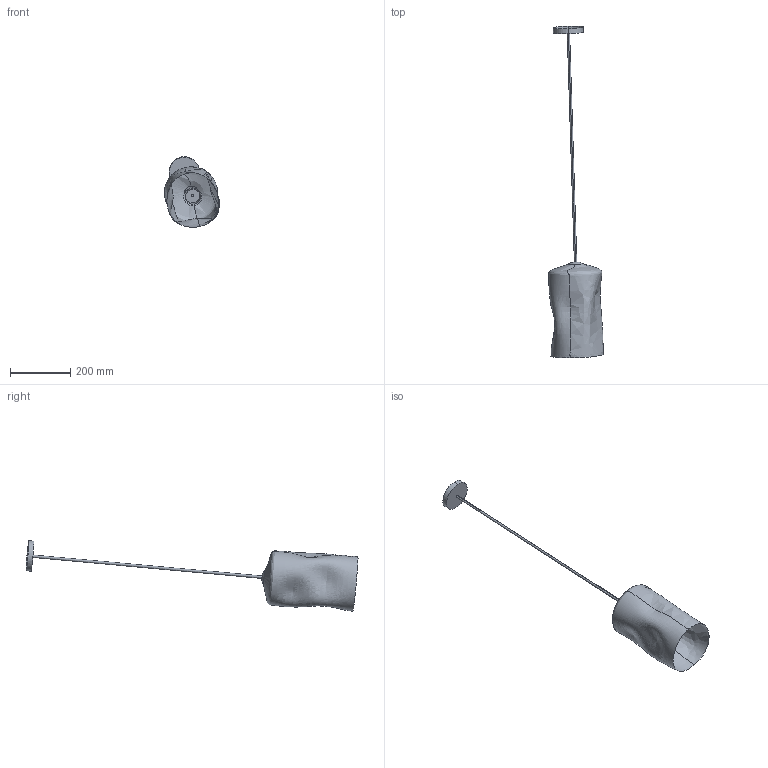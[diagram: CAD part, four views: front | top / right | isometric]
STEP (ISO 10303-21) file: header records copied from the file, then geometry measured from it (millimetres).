
FILE_DESCRIPTION(('STEP AP214'),'1');
FILE_NAME('Ruu.stp','2018-12-17T22:32:55',(' '),(' '),'Spatial InterOp 3D',' ',' ');
FILE_SCHEMA(('AUTOMOTIVE_DESIGN { 1 0 10303 214 1 1 1 1 }'));
Length unit declared in the file: metre
Products named in the file (3): Ruu; Projekt1; Domyślny
Assembly tree (2 placements, depth 2):
  Ruu
    Projekt1
    Domyślny
Bounding box: 181.68 x 1100.76 x 234.03 mm (x, y, z)
Surface area: 240402.1 mm2
Topology: 1 solids, 6 shells, 18 faces, 59 edges, 45 vertices
Faces by surface type: cylinder 6, plane 4, torus 4, revolution 2, bspline 2
Entity records: 30801 total; most frequent: CARTESIAN_POINT 30040, DIRECTION 110, ORIENTED_EDGE 90, EDGE_CURVE 59, AXIS2_PLACEMENT_3D 51, VERTEX_POINT 45, CIRCLE 34, STYLED_ITEM 24
